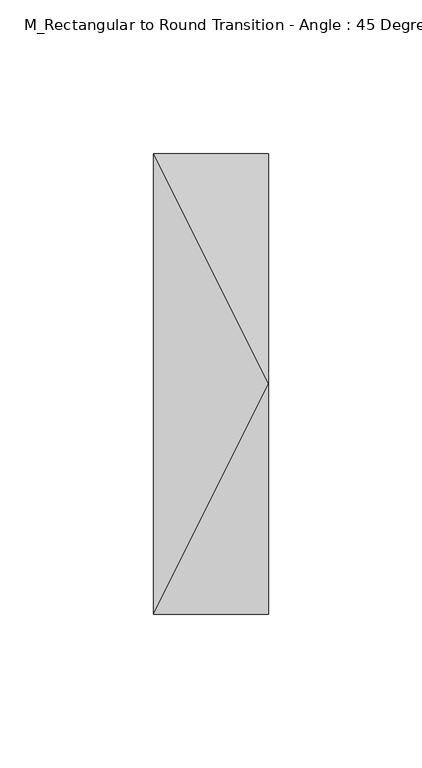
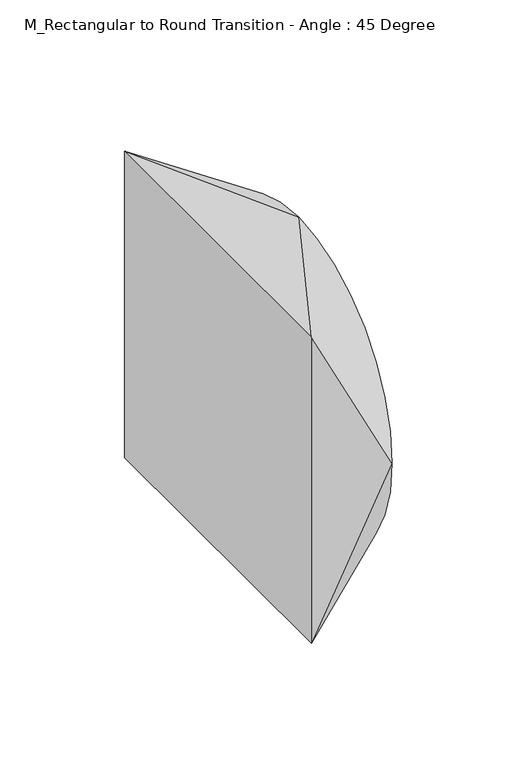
"""IFC4 building model written with IfcOpenShell, lengths in millimetres: duct fitting geometry, M_Rectangular to Round Transition - Angle : 45 Degree."""

from ifc_helpers import new_model, si_unit, frame, origin, place, context, project, spatial, circle_curve, source, transform, mapped, element, save
from ifc_brep_helpers import plane_surface, spline_surface, advanced_brep


def m_rectangular_to_round_transition_angle_45_degree_4e08f822(model_context):
    return source(origin(), model_context, "Body", "AdvancedBrep", [
        advanced_brep(
        [(37.5, 0.0, 75.0), (37.5, -75.0, 0.0), (37.5, 0.0, -75.0), (37.5, 75.0, 0.0), (0.0, -75.0, 75.0), (0.0, 75.0, 75.0), (0.0, 75.0, -75.0), (0.0, -75.0, -75.0)],
        [
            (0, 1, circle_curve(frame((37.5, 0.0, 0.0), z_axis=(1.0, 0.0, 0.0), x_axis=(0.0, 1.0, 0.0)), 75.0)),
            (1, 2, circle_curve(frame((37.5, 0.0, 0.0), z_axis=(1.0, 0.0, 0.0), x_axis=(0.0, 1.0, 0.0)), 75.0)),
            (2, 3, circle_curve(frame((37.5, 0.0, 0.0), z_axis=(1.0, 0.0, 0.0), x_axis=(0.0, 1.0, 0.0)), 75.0)),
            (3, 0, circle_curve(frame((37.5, 0.0, 0.0), z_axis=(1.0, 0.0, 0.0), x_axis=(0.0, 1.0, 0.0)), 75.0)),
            (4, 5),
            (5, 6),
            (6, 7),
            (7, 4),
            (0, 4),
            (4, 1),
            (7, 1),
            (7, 2),
            (6, 2),
            (6, 3),
            (5, 3),
            (5, 0),
        ],
        [
            plane_surface(frame((37.5, 0.0, 0.0), z_axis=(1.0, 0.0, 0.0), x_axis=(0.0, 0.0, -1.0))),
            plane_surface(frame((0.0, 0.0, 0.0), z_axis=(-1.0, 0.0, 0.0), x_axis=(0.0, 0.0, -1.0))),
            spline_surface(2, 1, [[(0.0, -75.0, 75.0), (37.5, 0.0, 75.0)], [(0.0, -75.0, 75.0), (37.5, -75.0, 75.0)], [(0.0, -75.0, 75.0), (37.5, -75.0, 0.0)]], [3, 3], [2, 2], [0.0, 1.0], [0.0, 1.0], weights=[[1.0, 1.0], [0.7071067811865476, 0.7071067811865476], [1.0, 1.0]]),
            plane_surface(frame((0.0, -75.0, 0.0), z_axis=(0.0, -1.0, 0.0), x_axis=(0.0, 0.0, -1.0))),
            spline_surface(2, 1, [[(0.0, -75.0, -75.0), (37.5, -75.0, 0.0)], [(0.0, -75.0, -75.0), (37.5, -75.0, -75.0)], [(0.0, -75.0, -75.0), (37.5, 0.0, -75.0)]], [3, 3], [2, 2], [0.0, 1.0], [0.0, 1.0], weights=[[1.0, 1.0], [0.7071067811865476, 0.7071067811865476], [1.0, 1.0]]),
            plane_surface(frame((0.0, 0.0, -75.0), z_axis=(0.0, 0.0, -1.0), x_axis=(0.0, 1.0, 0.0))),
            spline_surface(2, 1, [[(0.0, 75.0, -75.0), (37.5, 0.0, -75.0)], [(0.0, 75.0, -75.0), (37.5, 75.0, -75.0)], [(0.0, 75.0, -75.0), (37.5, 75.0, 0.0)]], [3, 3], [2, 2], [0.0, 1.0], [0.0, 1.0], weights=[[1.0, 1.0], [0.7071067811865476, 0.7071067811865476], [1.0, 1.0]]),
            plane_surface(frame((0.0, 75.0, 0.0), z_axis=(0.0, 1.0, 0.0), x_axis=(0.0, 0.0, 1.0))),
            spline_surface(2, 1, [[(0.0, 75.0, 75.0), (37.5, 75.0, 0.0)], [(0.0, 75.0, 75.0), (37.5, 75.0, 75.0)], [(0.0, 75.0, 75.0), (37.5, 0.0, 75.0)]], [3, 3], [2, 2], [0.0, 1.0], [0.0, 1.0], weights=[[1.0, 1.0], [0.7071067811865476, 0.7071067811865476], [1.0, 1.0]]),
            plane_surface(frame((0.0, 0.0, 75.0), z_axis=(0.0, 0.0, 1.0), x_axis=(0.0, -1.0, 0.0))),
        ],
        [
            (0, [[1, 2, 3, 4]]),
            (1, [[5, 6, 7, 8]]),
            (2, [[-1, 9, 10]]),
            (3, [[-8, 11, -10]]),
            (4, [[-2, -11, 12]]),
            (5, [[-7, 13, -12]]),
            (6, [[-3, -13, 14]]),
            (7, [[-6, 15, -14]]),
            (8, [[-4, -15, 16]]),
            (9, [[-5, -9, -16]]),
        ],
    ),
    ])


if __name__ == "__main__":
    model = new_model("IFC4")
    model_context = context("Model", 3, world=origin())
    ifc_project = project(units=[si_unit("LENGTHUNIT", "METRE", prefix="MILLI")], contexts=[model_context])
    site = spatial("IfcSite", under=ifc_project)
    building = spatial("IfcBuilding", under=site)
    placement = place(None, origin())
    m_rectangular_to_round_transition_angle_45_degree_shape = m_rectangular_to_round_transition_angle_45_degree_4e08f822(model_context)
    element("IfcDuctFitting", 1, ObjectType="M_Rectangular to Round Transition - Angle : 45 Degree", at=placement, inside=building, context=model_context, shape_type="MappedRepresentation", body=[
        mapped(m_rectangular_to_round_transition_angle_45_degree_shape, transform((0.0, 0.0, 0.0), x_axis=(1.0, 0.0, 0.0), y_axis=(0.0, 1.0, 0.0), z_axis=(0.0, 0.0, 1.0))),
    ])
    save(model, "model.ifc")
